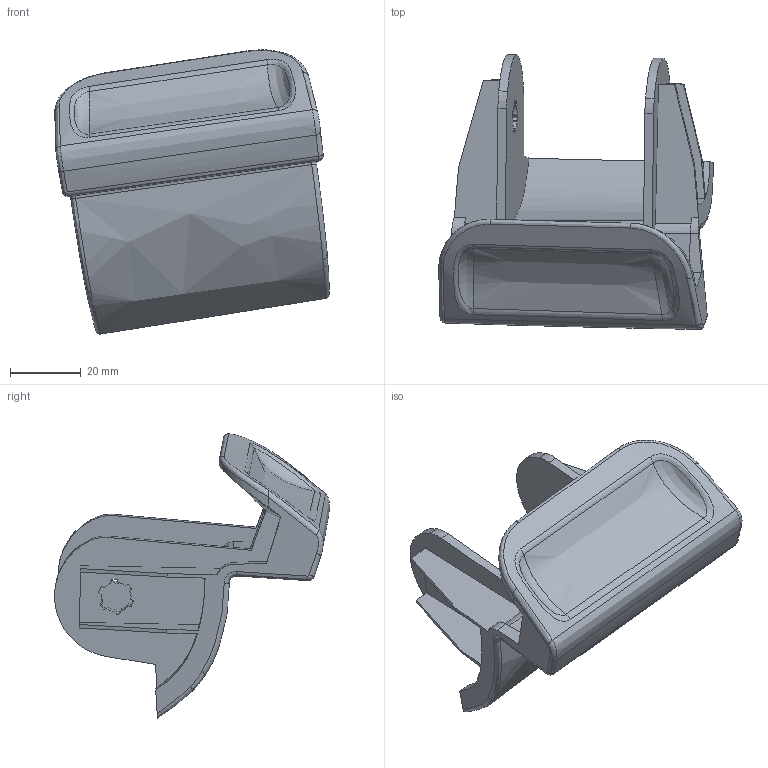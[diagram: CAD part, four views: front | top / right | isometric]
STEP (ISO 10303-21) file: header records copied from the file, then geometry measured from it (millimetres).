
FILE_DESCRIPTION(('CATIA V5 STEP Exchange','CAx-IF Rec.Pracs.--- Model Styling and Organization---1.4--- 2014-01-23'),'2;1');
FILE_NAME('C:\Users\luhaitao\Desktop\塑料件平台项目\塑料件样件清单\09.stp','2025-04-28T01:28:39+00:00',('none'),('none'),'CATIA Version 5-6 Release 2017','CATIA V5 STEP AP214','none');
FILE_SCHEMA(('AUTOMOTIVE_DESIGN { 1 0 10303 214 1 1 1 1 }'));
Length unit declared in the file: millimetre
Products named in the file (1): 09
Bounding box: 77.75 x 77.91 x 80.49 mm (x, y, z)
Volume: 35191.7 mm3; surface area: 28756.1 mm2
Topology: 1 solids, 1 shells, 191 faces, 639 edges, 452 vertices
Faces by surface type: bspline 122, plane 42, cylinder 27
Entity records: 15662 total; most frequent: CARTESIAN_POINT 11437, ORIENTED_EDGE 1278, EDGE_CURVE 639, VERTEX_POINT 452, B_SPLINE_CURVE_WITH_KNOTS 447, DIRECTION 265, EDGE_LOOP 197, ADVANCED_FACE 191
